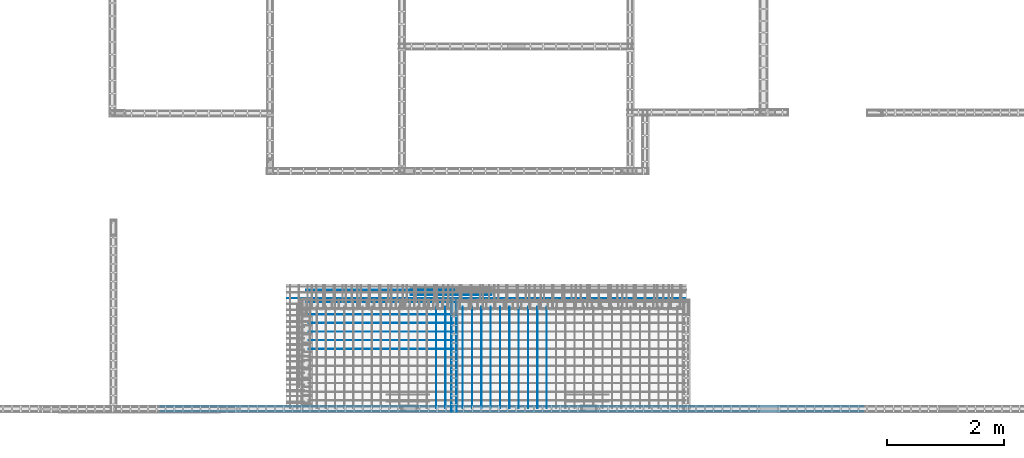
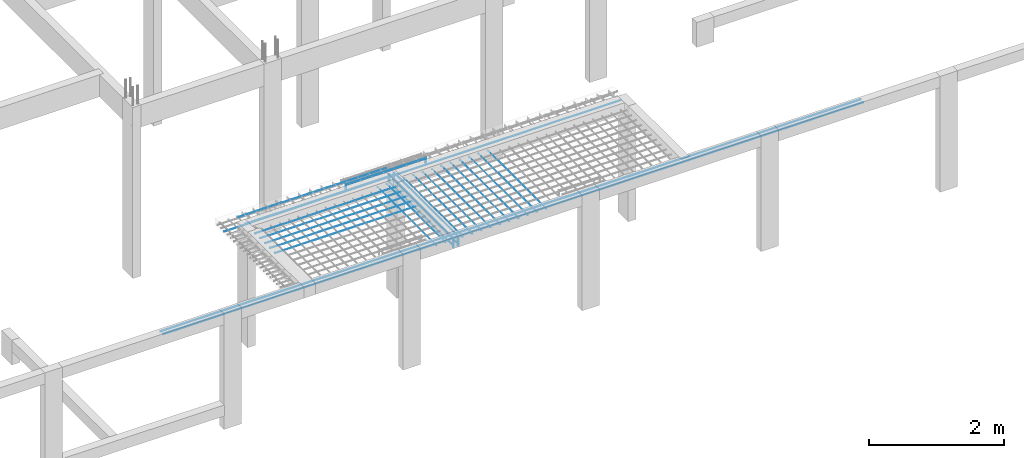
# One storey, part 38 of 236: 27 reinforcing bars.
"""IFC4 building model written with IfcOpenShell, lengths in centimetres."""

from ifc_helpers import new_model, entity, si_unit, derived_unit, frame, origin_with_axes, place, context, project, spatial, element, save


model = new_model("IFC4")

# Units and contexts
model_context = context("Model", 3, precision=1e-05, world=origin_with_axes(), identifier="Body")
ifc_project = project(units=[si_unit("LENGTHUNIT", "METRE", prefix="CENTI"), si_unit("VOLUMEUNIT", "CUBIC_METRE"), si_unit("AREAUNIT", "SQUARE_METRE"), si_unit("POWERUNIT", "WATT"), si_unit("LUMINOUSFLUXUNIT", "LUMEN"), si_unit("ELECTRICCURRENTUNIT", "AMPERE"), si_unit("PRESSUREUNIT", "PASCAL", prefix="KILO"), si_unit("MASSUNIT", "GRAM", prefix="KILO"), si_unit("PLANEANGLEUNIT", "RADIAN"), derived_unit("VOLUMETRICFLOWRATEUNIT", [(si_unit("LENGTHUNIT", "METRE"), 3), (si_unit("TIMEUNIT", "SECOND"), -1)])], contexts=[model_context])

# Site, building, storey
site_placement = place(None, frame((-4000.0, 0.0, 0.0), z_axis=(0.0, 0.0, 1.0), x_axis=(1.0, 0.0, 0.0)))
site = spatial("IfcSite", under=ifc_project, at=site_placement, Name="PADRÃO")
building_placement = place(site_placement, frame((0.0, 0.0, -14.0)))
building = spatial("IfcBuilding", under=site, at=building_placement, Name="CRECHE PRÉ-ESCOLA TIPO 2")
placement_1 = place(building_placement, origin_with_axes())
placement_2 = place(placement_1, frame((0.0, 0.0, 30.0), z_axis=(0.0, 0.0, 1.0), x_axis=(1.0, 0.0, 0.0)))
storey_placement = place(placement_2, frame((0.0, 0.0, 310.0), z_axis=(0.0, 0.0, 1.0), x_axis=(1.0, 0.0, 0.0)))
storey = spatial("IfcBuildingStorey", under=building, at=storey_placement, Name="TERREO", CompositionType="ELEMENT", Elevation=326.0)

# Reinforcing bars
for number, where, z_axis, x_axis, name in (
    (1, (2711.475, 212.057982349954, -103.0), (0.0, 0.0, 1.0), (1.0, 0.0, 0.0), "L1 - Complementar"),
    (2, (2711.475, 191.019327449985, -103.0), (0.0, 0.0, 1.0), (1.0, 0.0, 0.0), "L1 - Complementar"),
):
    element("IfcReinforcingBar", number, at=place(storey_placement, frame(where, z_axis=z_axis, x_axis=x_axis)), inside=storey, Name=name, BarLength=0.0, CrossSectionArea=1.9634954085e-05, NominalDiameter=0.5, PredefinedType="MAIN", context=model_context, shape_type="AdvancedSweptSolid", body=[
        entity("IfcSweptDiskSolid", entity("IfcCompositeCurve", [entity("IfcCompositeCurveSegment", "CONTINUOUS", True, entity("IfcPolyline", [entity("IfcCartesianPoint", [-126.015, 0.0, -0.25]), entity("IfcCartesianPoint", [126.015, 0.0, -0.25])]))], False), 0.25),
    ])
for number, where, z_axis, x_axis, name in (
    (3, (2822.66566666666, 96.75, -109.5), (0.0, 0.0, 1.0), (1.0, 0.0, 0.0), "L1 - Inferior X"),
    (4, (2806.997, 96.75, -109.5), (0.0, 0.0, 1.0), (1.0, 0.0, 0.0), "L1 - Inferior X"),
):
    element("IfcReinforcingBar", number, at=place(storey_placement, frame(where, z_axis=z_axis, x_axis=x_axis)), inside=storey, Name=name, BarLength=0.0, CrossSectionArea=1.9634954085e-05, NominalDiameter=0.5, PredefinedType="MAIN", context=model_context, shape_type="AdvancedSweptSolid", body=[
        entity("IfcSweptDiskSolid", entity("IfcCompositeCurve", [entity("IfcCompositeCurveSegment", "CONTINUOUS", True, entity("IfcPolyline", [entity("IfcCartesianPoint", [0.0, -86.75, -0.25]), entity("IfcCartesianPoint", [0.0, 86.75, -0.25])]))], False), 0.25),
    ])
for number, where, z_axis, x_axis, name in (
    (5, (2712.975, 155.477272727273, -109.0), (0.0, 0.0, 1.0), (1.0, 0.0, 0.0), "L1 - Inferior Y"),
    (6, (2712.975, 126.113636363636, -109.0), (0.0, 0.0, 1.0), (1.0, 0.0, 0.0), "L1 - Inferior Y"),
    (7, (2712.975, 140.795454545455, -109.0), (0.0, 0.0, 1.0), (1.0, 0.0, 0.0), "L1 - Inferior Y"),
    (8, (2712.975, 111.431818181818, -109.0), (0.0, 0.0, 1.0), (1.0, 0.0, 0.0), "L1 - Inferior Y"),
    (9, (2712.975, 170.159090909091, -109.0), (0.0, 0.0, 1.0), (1.0, 0.0, 0.0), "L1 - Inferior Y"),
):
    element("IfcReinforcingBar", number, at=place(storey_placement, frame(where, z_axis=z_axis, x_axis=x_axis)), inside=storey, Name=name, BarLength=0.0, CrossSectionArea=1.9634954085e-05, NominalDiameter=0.5, PredefinedType="MAIN", context=model_context, shape_type="AdvancedSweptSolid", body=[
        entity("IfcSweptDiskSolid", entity("IfcCompositeCurve", [entity("IfcCompositeCurveSegment", "CONTINUOUS", True, entity("IfcPolyline", [entity("IfcCartesianPoint", [123.505, 0.0, -0.25]), entity("IfcCartesianPoint", [-123.505, 0.0, -0.25])]))], False), 0.25),
    ])
reinforcing_bar_1_placement = place(storey_placement, frame((2892.22, 197.916666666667, -109.5), z_axis=(0.0, 0.0, 1.0), x_axis=(1.0, 0.0, 0.0)))
element("IfcReinforcingBar", 10, at=reinforcing_bar_1_placement, inside=storey, Name="L2 - Inferior X", BarLength=0.0, CrossSectionArea=1.9634954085e-05, NominalDiameter=0.5, PredefinedType="MAIN", context=model_context, shape_type="AdvancedSweptSolid", body=[
    entity("IfcSweptDiskSolid", entity("IfcCompositeCurve", [entity("IfcCompositeCurveSegment", "CONTINUOUS", True, entity("IfcPolyline", [entity("IfcCartesianPoint", [-339.76, 0.0, -0.25]), entity("IfcCartesianPoint", [339.76, 0.0, -0.25])]))], False), 0.25),
])
reinforcing_bar_2_placement = place(storey_placement, frame((2832.46, 203.75, -101.995312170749), z_axis=(0.0, 0.0, 1.0), x_axis=(1.0, 0.0, 0.0)))
element("IfcReinforcingBar", 11, at=reinforcing_bar_2_placement, inside=storey, Name="L2 - Superior X", BarLength=0.0, CrossSectionArea=7.853981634e-05, NominalDiameter=1.0, PredefinedType="MAIN", context=model_context, shape_type="AdvancedSweptSolid", body=[
    entity("IfcSweptDiskSolid", entity("IfcCompositeCurve", [entity("IfcCompositeCurveSegment", "CONTINUOUS", True, entity("IfcPolyline", [entity("IfcCartesianPoint", [-68.5, 0.0, -8.0046878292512]), entity("IfcCartesianPoint", [-68.5, 0.0, -0.504687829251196])])), entity("IfcCompositeCurveSegment", "CONTINUOUS", True, entity("IfcPolyline", [entity("IfcCartesianPoint", [-68.5, 0.0, -0.504687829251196]), entity("IfcCartesianPoint", [68.5, 0.0, -0.504687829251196])])), entity("IfcCompositeCurveSegment", "CONTINUOUS", True, entity("IfcPolyline", [entity("IfcCartesianPoint", [68.5, 0.0, -0.504687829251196]), entity("IfcCartesianPoint", [68.5, 0.0, -8.0046878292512])]))], False), 0.5),
])
for number, where, z_axis, x_axis, name in (
    (12, (2916.20875, 96.75, -109.5), (0.0, 0.0, 1.0), (1.0, 0.0, 0.0), "L3 - Inferior X"),
    (13, (2884.33375, 96.75, -109.5), (0.0, 0.0, 1.0), (1.0, 0.0, 0.0), "L3 - Inferior X"),
    (14, (2868.39625, 96.75, -109.5), (0.0, 0.0, 1.0), (1.0, 0.0, 0.0), "L3 - Inferior X"),
    (15, (2852.45875, 96.75, -109.5), (0.0, 0.0, 1.0), (1.0, 0.0, 0.0), "L3 - Inferior X"),
    (16, (2932.14625, 96.75, -109.5), (0.0, 0.0, 1.0), (1.0, 0.0, 0.0), "L3 - Inferior X"),
    (17, (2948.08375, 96.75, -109.5), (0.0, 0.0, 1.0), (1.0, 0.0, 0.0), "L3 - Inferior X"),
    (18, (2964.02125, 96.75, -109.5), (0.0, 0.0, 1.0), (1.0, 0.0, 0.0), "L3 - Inferior X"),
    (19, (2995.89625, 96.75, -109.5), (0.0, 0.0, 1.0), (1.0, 0.0, 0.0), "L3 - Inferior X"),
    (20, (2900.27125, 96.75, -109.5), (0.0, 0.0, 1.0), (1.0, 0.0, 0.0), "L3 - Inferior X"),
    (21, (2979.95875, 96.75, -109.5), (0.0, 0.0, 1.0), (1.0, 0.0, 0.0), "L3 - Inferior X"),
):
    element("IfcReinforcingBar", number, at=place(storey_placement, frame(where, z_axis=z_axis, x_axis=x_axis)), inside=storey, Name=name, BarLength=0.0, CrossSectionArea=1.9634954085e-05, NominalDiameter=0.5, PredefinedType="MAIN", context=model_context, shape_type="AdvancedSweptSolid", body=[
        entity("IfcSweptDiskSolid", entity("IfcCompositeCurve", [entity("IfcCompositeCurveSegment", "CONTINUOUS", True, entity("IfcPolyline", [entity("IfcCartesianPoint", [0.0, -86.75, -0.25]), entity("IfcCartesianPoint", [0.0, 86.75, -0.25])]))], False), 0.25),
    ])
for number, where, z_axis, x_axis, name in (
    (22, (2936.42850246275, 4.9, -102.5), (0.0, 0.0, 1.0), (1.0, 0.0, 0.0), "V323 - Longitudinal superior"),
    (23, (2936.42850246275, 13.1, -102.5), (0.0, 0.0, 1.0), (1.0, 0.0, 0.0), "V323 - Longitudinal superior"),
):
    element("IfcReinforcingBar", number, at=place(storey_placement, frame(where, z_axis=z_axis, x_axis=x_axis)), inside=storey, Name=name, BarLength=0.0, CrossSectionArea=5.0265482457e-05, NominalDiameter=0.8, PredefinedType="MAIN", context=model_context, shape_type="AdvancedSweptSolid", body=[
        entity("IfcSweptDiskSolid", entity("IfcCompositeCurve", [entity("IfcCompositeCurveSegment", "CONTINUOUS", True, entity("IfcPolyline", [entity("IfcCartesianPoint", [-600.0, 0.0, -0.4]), entity("IfcCartesianPoint", [600.0, 0.0, -0.4])]))], False), 0.4),
    ])
for number, where, z_axis, x_axis, name in (
    (24, (2841.59, 99.75, -116.7), (0.0, 0.0, 1.0), (1.0, 0.0, 0.0), "V326 - Longitudinal inferior"),
    (25, (2833.39, 99.75, -116.7), (0.0, 0.0, 1.0), (1.0, 0.0, 0.0), "V326 - Longitudinal inferior"),
):
    element("IfcReinforcingBar", number, at=place(storey_placement, frame(where, z_axis=z_axis, x_axis=x_axis)), inside=storey, Name=name, BarLength=0.0, CrossSectionArea=5.0265482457e-05, NominalDiameter=0.8, PredefinedType="MAIN", context=model_context, shape_type="AdvancedSweptSolid", body=[
        entity("IfcSweptDiskSolid", entity("IfcCompositeCurve", [entity("IfcCompositeCurveSegment", "CONTINUOUS", True, entity("IfcPolyline", [entity("IfcCartesianPoint", [0.0, -95.75, -0.4]), entity("IfcCartesianPoint", [0.0, 95.75, -0.4])]))], False), 0.4),
    ])
for number, where, z_axis, x_axis, name in (
    (26, (2833.39, 99.75, -102.496249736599), (0.0, 0.0, 1.0), (1.0, 0.0, 0.0), "V326 - Longitudinal superior"),
    (27, (2841.59, 99.75, -102.496249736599), (0.0, 0.0, 1.0), (1.0, 0.0, 0.0), "V326 - Longitudinal superior"),
):
    element("IfcReinforcingBar", number, at=place(storey_placement, frame(where, z_axis=z_axis, x_axis=x_axis)), inside=storey, Name=name, BarLength=0.0, CrossSectionArea=5.0265482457e-05, NominalDiameter=0.8, PredefinedType="MAIN", context=model_context, shape_type="AdvancedSweptSolid", body=[
        entity("IfcSweptDiskSolid", entity("IfcCompositeCurve", [entity("IfcCompositeCurveSegment", "CONTINUOUS", True, entity("IfcPolyline", [entity("IfcCartesianPoint", [0.0, -95.35, -16.403750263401]), entity("IfcCartesianPoint", [0.0, -95.35, -0.403750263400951])])), entity("IfcCompositeCurveSegment", "CONTINUOUS", True, entity("IfcPolyline", [entity("IfcCartesianPoint", [0.0, -95.35, -0.403750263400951]), entity("IfcCartesianPoint", [0.0, 95.35, -0.403750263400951])])), entity("IfcCompositeCurveSegment", "CONTINUOUS", True, entity("IfcPolyline", [entity("IfcCartesianPoint", [0.0, 95.35, -0.403750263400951]), entity("IfcCartesianPoint", [0.0, 95.35, -11.5526065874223])]))], False), 0.4),
    ])

save(model, "model.ifc")
